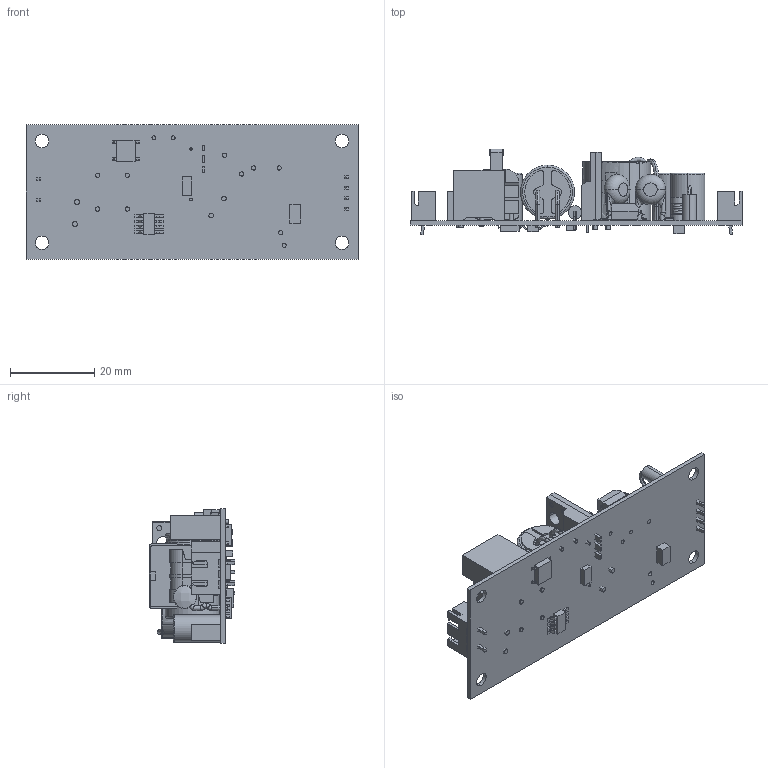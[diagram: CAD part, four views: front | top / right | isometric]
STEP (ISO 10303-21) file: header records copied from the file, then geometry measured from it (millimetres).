
FILE_DESCRIPTION (( 'STEP AP214' ), '1' );
FILE_NAME ('EML15-T.STEP', '2013-09-04T18:18:06', ( '' ), ( '' ), 'SwSTEP 2.0', 'SolidWorks 2013', '' );
FILE_SCHEMA (( 'AUTOMOTIVE_DESIGN' ));
Length unit declared in the file: inch
Products named in the file (18): EML15-T pcb; EML15 inductor; EML15 bulk cap; bulk cap 4; bulk cap 3; bulk cap 1; EML15 bulk cap leads; bulk cap; EML15 output inductor; EML15 IC; EML15 y-cap; CX(7_2X12); EML15 opto; 3PIN; EML15 transformer; EML15-T; EML15 CORE; 4PIN
Assembly tree (18 placements, depth 3):
  EML15-T
    EML15 transformer
    3PIN
    EML15 opto
    CX(7_2X12)  x2
    EML15 y-cap
    EML15 IC
    EML15 output inductor
    EML15 bulk cap
      bulk cap
      EML15 bulk cap leads
      bulk cap 1
      bulk cap 3
      bulk cap 4
    EML15 inductor
    EML15-T pcb
    4PIN
    EML15 CORE
Bounding box: 78.7 x 20.3 x 31.8 mm (x, y, z)
Volume: 13183.2 mm3; surface area: 14937.5 mm2
Topology: 17 solids, 19 shells, 1039 faces, 2850 edges, 1868 vertices
Faces by surface type: plane 709, cylinder 198, bspline 104, torus 28
Entity records: 55602 total; most frequent: CARTESIAN_POINT 16227, ORIENTED_EDGE 5584, DIRECTION 4790, EDGE_CURVE 2792, LINE 1974, VECTOR 1974, VERTEX_POINT 1836, AXIS2_PLACEMENT_3D 1408
